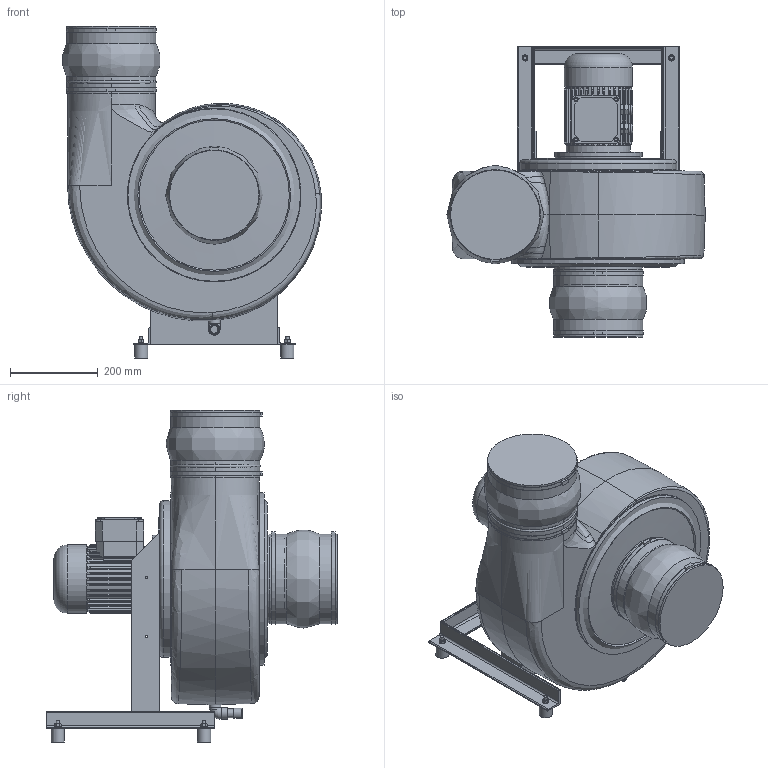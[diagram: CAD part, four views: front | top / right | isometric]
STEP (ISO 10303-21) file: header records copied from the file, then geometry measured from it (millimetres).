
FILE_DESCRIPTION( ( 'Unknown' ), '1' );
FILE_NAME( 'K:/HOME/HLT_CAD/Z/HF/3D/Zusammenstellung/HFR/HFR 15_17/HFR...-15D/DS_1/HFR_200-15D/GL360/HFR_200-15D_DS1_GL_360_080.stp', 'Unknown', ( 'Unknown' ), ( 'Unknown' ), 'PSStep 17.0.49', 'Unknown', ' ' );
FILE_SCHEMA( ( 'AUTOMOTIVE_DESIGN { 1 0 10303 214 1 1 1 1 }' ) );
Length unit declared in the file: millimetre
Products named in the file (26): 5301_Gestell_HFR200_15_17_D_DS1; Angle 40x40x4-oa1; Angle 40x40x4-oa2; Angle 40x40x4-oa3; 5301_Gehäusebefestigungsplatte-oa4; 5159_Kondensatablauf_125-315; Winkel_90°_G1_2; Stopfen_G1_2-oa0; Rohr_20; Verschlusskappe_20; 6203_Kugelmanschette; 6203_Manschettenband_HFR200; 6203_Schelle_HFR200; 5217_Laufradbefestigung; 5217_Drehteil; 5217_Flachdichtung_Ø32; 5217_Schraubkappe; 5217_Flachdichtung_Ø63; Assem1; Laufrad 200_GL; 200 mit laufrad HF R 200; 6611_Motorring_Bg80; Schwidä_30x30; 6kant_M8; B5_80a_2HIHI; HFR 200_GL_abgeschn
Assembly tree (33 placements, depth 3):
  Assem1
    Laufrad 200_GL
    200 mit laufrad HF R 200
    6611_Motorring_Bg80
    Schwidä_30x30  x4
    6kant_M8  x4
    B5_80a_2HIHI
    HFR 200_GL_abgeschn
    5159_Kondensatablauf_125-315
      Winkel_90°_G1_2
      Stopfen_G1_2-oa0
      Rohr_20
      Verschlusskappe_20
    6203_Kugelmanschette  x2
      6203_Manschettenband_HFR200
      6203_Schelle_HFR200
    5217_Laufradbefestigung
      5217_Drehteil
      5217_Flachdichtung_Ø32
      5217_Schraubkappe
      5217_Flachdichtung_Ø63
    5301_Gestell_HFR200_15_17_D_DS1
      Angle 40x40x4-oa1
      Angle 40x40x4-oa2
      Angle 40x40x4-oa3
      5301_Gehäusebefestigungsplatte-oa4
Bounding box: 590.09 x 663 x 758 mm (x, y, z)
Volume: 74000573.4 mm3; surface area: 2913030.4 mm2
Topology: 31 solids, 40 shells, 1341 faces, 3206 edges, 2047 vertices
Faces by surface type: plane 766, cylinder 321, cone 132, bspline 94, torus 24, revolution 4
Full cylindrical faces by diameter (mm): 3.5 x3, 4.917 x1, 5.5 x4, 6.647 x8, 8 x14, 9 x2, 10 x4, 10.5 x1, 11 x12, 12 x13, 13 x25, 16 x2, 17 x1, 19 x1, 20 x4, 20.955 x1, 22.212 x1, 22.8 x1, 23 x1, 24 x4, 25 x1, 26.5 x2, 30 x4, 30.291 x1, 32 x1, 33.25 x1, 37 x1, 40 x1, 44 x1, 46 x1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
Entity records: 75745 total; most frequent: CARTESIAN_POINT 37290, ORIENTED_EDGE 5532, DIRECTION 5489, EDGE_CURVE 2766, AXIS2_PLACEMENT_3D 2044, VERTEX_POINT 1858, EDGE_LOOP 1624, FACE_OUTER_BOUND 1404
